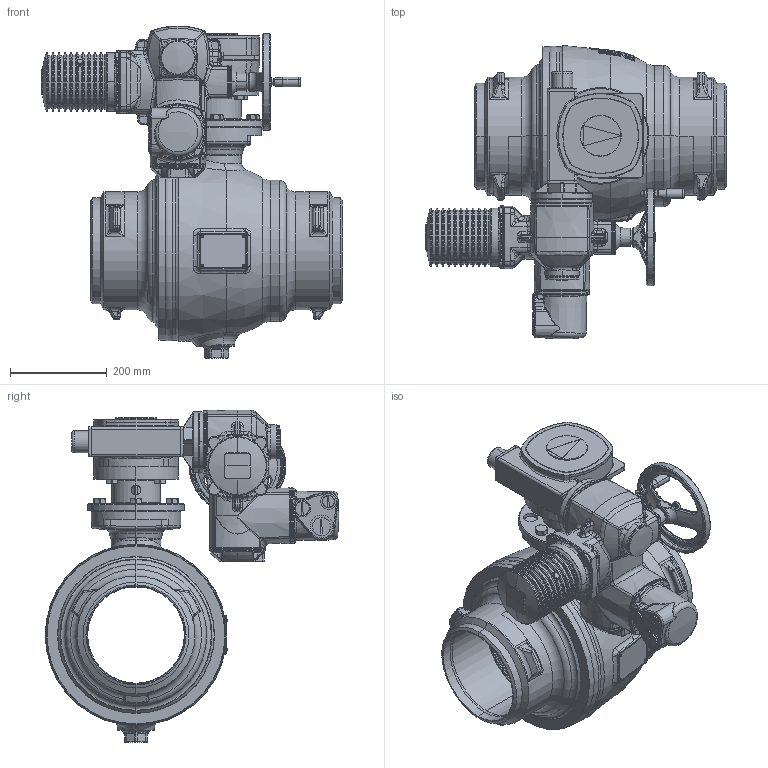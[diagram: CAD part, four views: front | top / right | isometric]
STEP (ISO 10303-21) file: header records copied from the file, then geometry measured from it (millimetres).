
FILE_DESCRIPTION((''),'2;1');
FILE_NAME('ASM0001_ASM','2016-10-17T',('schwaba'),('RAND'),'PRO/ENGINEER BY PARAMETRIC TECHNOLOGY CORPORATION, 2016100','PRO/ENGINEER BY PARAMETRIC TECHNOLOGY CORPORATION, 2016100','');
FILE_SCHEMA(('CONFIG_CONTROL_DESIGN'));
Products named in the file (3): KHSVI_200_FR_WE_O_IT; GS80; ASM0001_ASM
Assembly tree (2 placements, depth 2):
  ASM0001_ASM
    KHSVI_200_FR_WE_O_IT
    GS80
Bounding box: 623.11 x 607.09 x 686.8 mm (x, y, z)
Volume: 27896989.5 mm3; surface area: 2735849.3 mm2
Topology: 3 solids, 11 shells, 3901 faces, 9671 edges, 5862 vertices
Faces by surface type: plane 1297, cylinder 789, bspline 698, cone 487, torus 447, sphere 116, extrusion 59, revolution 8
Entity records: 220516 total; most frequent: CARTESIAN_POINT 133339, ORIENTED_EDGE 19192, DIRECTION 17057, EDGE_CURVE 9596, AXIS2_PLACEMENT_3D 7149, VERTEX_POINT 5862, EDGE_LOOP 4108, CIRCLE 4008
